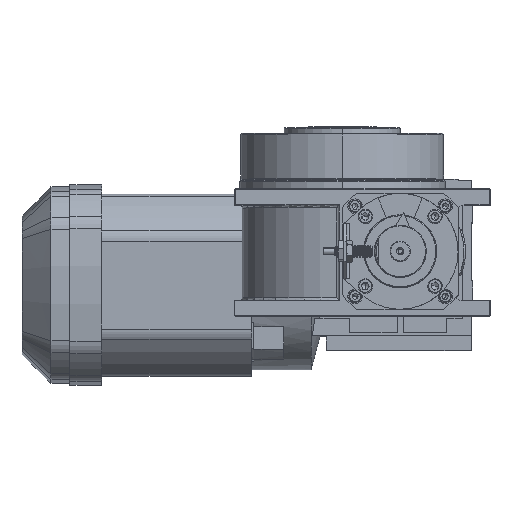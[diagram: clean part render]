
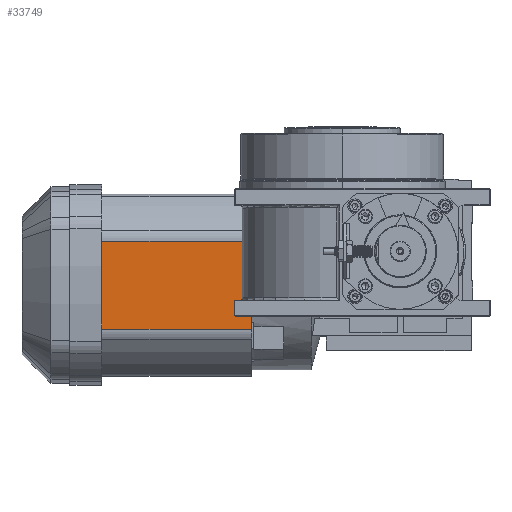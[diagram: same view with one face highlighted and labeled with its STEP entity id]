
A CAD part, top view. The second image highlights one B-rep face of the part: STEP entity #33749.
In plain terms, the highlighted planar face has unit normal (0, 0, 1).
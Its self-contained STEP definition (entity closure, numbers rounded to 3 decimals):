
#1803 = LINE ( 'NONE', #17726, #44100 ) ;
#2159 = CARTESIAN_POINT ( 'NONE',  ( -101.124, -13.839, -51.991 ) ) ;
#4839 = DIRECTION ( 'NONE',  ( 0., -1., 0. ) ) ;
#6734 = VECTOR ( 'NONE', #4839, 1000. ) ;
#6903 = PLANE ( 'NONE',  #11203 ) ;
#6980 = EDGE_CURVE ( 'NONE', #50676, #49813, #1803, .T. ) ;
#7228 = DIRECTION ( 'NONE',  ( 0., 0., -1. ) ) ;
#7527 = DIRECTION ( 'NONE',  ( 0., 1., 0. ) ) ;
#8155 = CARTESIAN_POINT ( 'NONE',  ( -204.624, -13.839, -51.991 ) ) ;
#9917 = LINE ( 'NONE', #38125, #6734 ) ;
#11203 = AXIS2_PLACEMENT_3D ( 'NONE', #29521, #7228, #7527 ) ;
#11336 = ORIENTED_EDGE ( 'NONE', *, *, #6980, .F. ) ;
#11554 = VERTEX_POINT ( 'NONE', #24604 ) ;
#16396 = ORIENTED_EDGE ( 'NONE', *, *, #47158, .F. ) ;
#17726 = CARTESIAN_POINT ( 'NONE',  ( -204.624, -103.706, -51.991 ) ) ;
#19236 = DIRECTION ( 'NONE',  ( 1., 0., 0. ) ) ;
#21835 = VERTEX_POINT ( 'NONE', #2159 ) ;
#23871 = DIRECTION ( 'NONE',  ( -1., 0., 0. ) ) ;
#24604 = CARTESIAN_POINT ( 'NONE',  ( -101.124, -74.637, -51.991 ) ) ;
#26867 = DIRECTION ( 'NONE',  ( 0., 1., 0. ) ) ;
#29521 = CARTESIAN_POINT ( 'NONE',  ( -204.624, -13.839, -51.991 ) ) ;
#33749 = ADVANCED_FACE ( 'NONE', ( #44015 ), #6903, .F. ) ;
#34256 = EDGE_CURVE ( 'NONE', #11554, #50676, #48585, .T. ) ;
#38125 = CARTESIAN_POINT ( 'NONE',  ( -101.124, -13.839, -51.991 ) ) ;
#38150 = CARTESIAN_POINT ( 'NONE',  ( -204.624, -74.637, -51.991 ) ) ;
#38815 = CARTESIAN_POINT ( 'NONE',  ( -204.624, -13.839, -51.991 ) ) ;
#42312 = LINE ( 'NONE', #38815, #45914 ) ;
#44015 = FACE_OUTER_BOUND ( 'NONE', #62379, .T. ) ;
#44100 = VECTOR ( 'NONE', #26867, 1000. ) ;
#44782 = ORIENTED_EDGE ( 'NONE', *, *, #34256, .F. ) ;
#45914 = VECTOR ( 'NONE', #19236, 1000. ) ;
#46957 = ORIENTED_EDGE ( 'NONE', *, *, #51121, .F. ) ;
#47158 = EDGE_CURVE ( 'NONE', #21835, #11554, #9917, .T. ) ;
#48585 = LINE ( 'NONE', #38150, #57935 ) ;
#49813 = VERTEX_POINT ( 'NONE', #8155 ) ;
#50031 = CARTESIAN_POINT ( 'NONE',  ( -204.624, -74.637, -51.991 ) ) ;
#50676 = VERTEX_POINT ( 'NONE', #50031 ) ;
#51121 = EDGE_CURVE ( 'NONE', #49813, #21835, #42312, .T. ) ;
#57935 = VECTOR ( 'NONE', #23871, 1000. ) ;
#62379 = EDGE_LOOP ( 'NONE', ( #46957, #11336, #44782, #16396 ) ) ;
